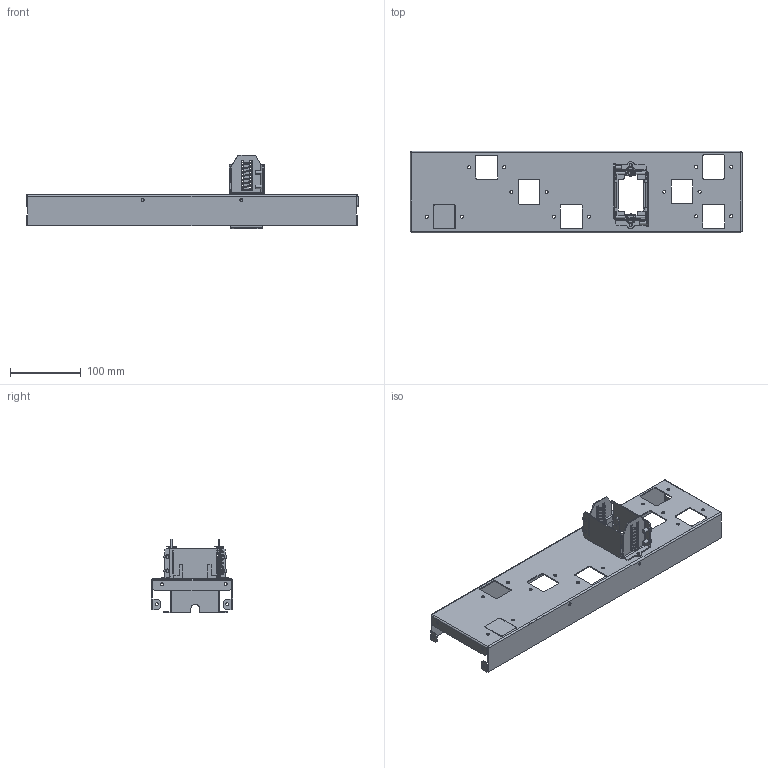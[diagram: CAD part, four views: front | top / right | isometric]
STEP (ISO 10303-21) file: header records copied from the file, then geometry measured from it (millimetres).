
FILE_DESCRIPTION(('CAx-IF Rec.Pracs.---Model Styling and Organization---1.2---2011-12-15','CAx-IF Rec.Pracs.---Geometric and Assembly Validation Properties---4.1---2014-06-16','CAx-IF Rec.Pracs.---PMI Polyline Presentation---2.0---2013-05-24'),'2;1');
FILE_NAME('R5M2W3M1BR22.stp','2021-05-05T12:13:39+03:00',(''),(''),'STEP Interface 4.4 by CT CoreTechnologie','3D_Evolution4.4 by CT CoreTechnologie','');
FILE_SCHEMA(('AUTOMOTIVE_DESIGN { 1 0 10303 214 1 1 1 1 }'));
Length unit declared in the file: millimetre
Products named in the file (8): R5M2W3M1BR22; RB.1567.00.00.0_-00; RB.1765.00.00.0 ÑÁ; RB.1570.00.00.0; RB.1569.00.00.1_-00; RB.1571.00.00.0_In prestressed condition - 40 mm; M5x8-DIN7500C_stright; RB.1506.00.00.0_-01
Assembly tree (13 placements, depth 3):
  R5M2W3M1BR22
    RB.1567.00.00.0_-00
    RB.1765.00.00.0 ÑÁ
      RB.1570.00.00.0  x2
      RB.1569.00.00.1_-00  x2
      RB.1571.00.00.0_In prestressed condition - 40 mm  x2
      M5x8-DIN7500C_stright  x4
    RB.1506.00.00.0_-01
Bounding box: 470 x 115 x 103.8 mm (x, y, z)
Surface area: 240635 mm2 (no closed solid volume)
Topology: 0 solids, 20 shells, 675 faces, 1786 edges, 1151 vertices
Faces by surface type: plane 443, cylinder 204, bspline 28
Entity records: 17179 total; most frequent: CARTESIAN_POINT 4220, ORIENTED_EDGE 2592, DIRECTION 2586, EDGE_CURVE 1296, VECTOR 948, LINE 948, VERTEX_POINT 833, AXIS2_PLACEMENT_3D 819
